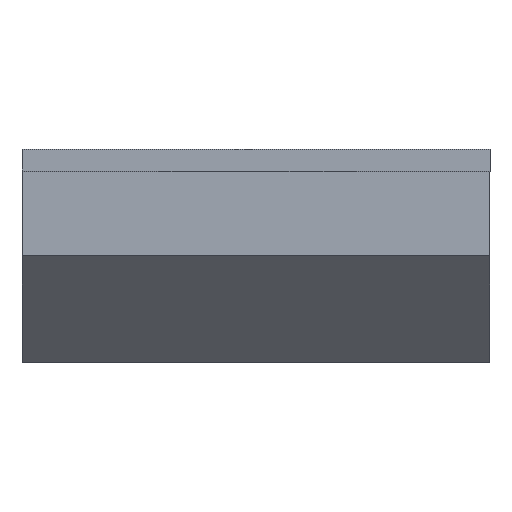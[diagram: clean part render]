
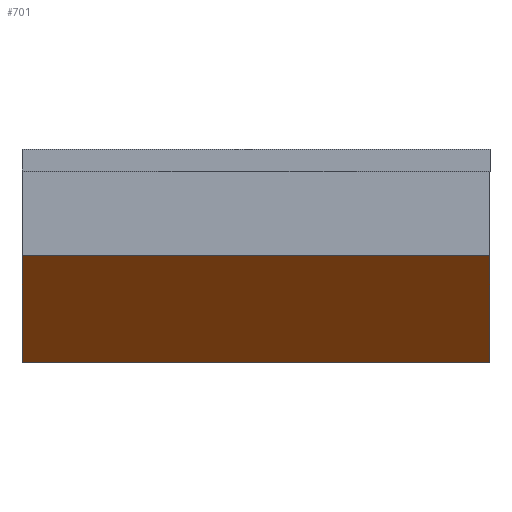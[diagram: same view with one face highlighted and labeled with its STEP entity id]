
A CAD part, top view. The second image highlights one B-rep face of the part: STEP entity #701.
In plain terms, the highlighted planar face has unit normal (0, -0.707, 0.707).
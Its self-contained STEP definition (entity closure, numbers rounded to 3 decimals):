
#484 = VERTEX_POINT('',#485);
#485 = CARTESIAN_POINT('',(0.,0.,6.441));
#492 = PLANE('',#493);
#493 = AXIS2_PLACEMENT_3D('',#494,#495,#496);
#494 = CARTESIAN_POINT('',(0.,0.,0.));
#495 = DIRECTION('',(1.,0.,0.));
#496 = DIRECTION('',(0.,0.,1.));
#504 = PLANE('',#505);
#505 = AXIS2_PLACEMENT_3D('',#506,#507,#508);
#506 = CARTESIAN_POINT('',(0.,0.,0.));
#507 = DIRECTION('',(0.,1.,0.));
#508 = DIRECTION('',(0.,0.,1.));
#573 = VERTEX_POINT('',#574);
#574 = CARTESIAN_POINT('',(0.,2.35,8.79));
#588 = PLANE('',#589);
#589 = AXIS2_PLACEMENT_3D('',#590,#591,#592);
#590 = CARTESIAN_POINT('',(0.,0.,8.79));
#591 = DIRECTION('',(0.,0.,1.));
#592 = DIRECTION('',(1.,0.,0.));
#600 = EDGE_CURVE('',#484,#573,#601,.T.);
#601 = SURFACE_CURVE('',#602,(#606,#613),.PCURVE_S1.);
#602 = LINE('',#603,#604);
#603 = CARTESIAN_POINT('',(0.,-1.023,5.418));
#604 = VECTOR('',#605,1.);
#605 = DIRECTION('',(-0.,0.707,0.707));
#606 = PCURVE('',#492,#607);
#607 = DEFINITIONAL_REPRESENTATION('',(#608),#612);
#608 = LINE('',#609,#610);
#609 = CARTESIAN_POINT('',(5.418,1.023));
#610 = VECTOR('',#611,1.);
#611 = DIRECTION('',(0.707,-0.707));
#612 = ( GEOMETRIC_REPRESENTATION_CONTEXT(2) 
PARAMETRIC_REPRESENTATION_CONTEXT() REPRESENTATION_CONTEXT('2D SPACE',''
  ) );
#613 = PCURVE('',#614,#619);
#614 = PLANE('',#615);
#615 = AXIS2_PLACEMENT_3D('',#616,#617,#618);
#616 = CARTESIAN_POINT('',(0.,1.175,7.615));
#617 = DIRECTION('',(0.,0.707,-0.707));
#618 = DIRECTION('',(-1.,-0.,-0.));
#619 = DEFINITIONAL_REPRESENTATION('',(#620),#624);
#620 = LINE('',#621,#622);
#621 = CARTESIAN_POINT('',(-0.,-3.108));
#622 = VECTOR('',#623,1.);
#623 = DIRECTION('',(-0.,1.));
#624 = ( GEOMETRIC_REPRESENTATION_CONTEXT(2) 
PARAMETRIC_REPRESENTATION_CONTEXT() REPRESENTATION_CONTEXT('2D SPACE',''
  ) );
#632 = VERTEX_POINT('',#633);
#633 = CARTESIAN_POINT('',(10.36,0.,6.441));
#647 = PLANE('',#648);
#648 = AXIS2_PLACEMENT_3D('',#649,#650,#651);
#649 = CARTESIAN_POINT('',(10.36,0.,0.));
#650 = DIRECTION('',(1.,0.,0.));
#651 = DIRECTION('',(0.,0.,1.));
#681 = EDGE_CURVE('',#484,#632,#682,.T.);
#682 = SURFACE_CURVE('',#683,(#687,#694),.PCURVE_S1.);
#683 = LINE('',#684,#685);
#684 = CARTESIAN_POINT('',(0.,0.,6.441));
#685 = VECTOR('',#686,1.);
#686 = DIRECTION('',(1.,0.,0.));
#687 = PCURVE('',#504,#688);
#688 = DEFINITIONAL_REPRESENTATION('',(#689),#693);
#689 = LINE('',#690,#691);
#690 = CARTESIAN_POINT('',(6.441,0.));
#691 = VECTOR('',#692,1.);
#692 = DIRECTION('',(0.,1.));
#693 = ( GEOMETRIC_REPRESENTATION_CONTEXT(2) 
PARAMETRIC_REPRESENTATION_CONTEXT() REPRESENTATION_CONTEXT('2D SPACE',''
  ) );
#694 = PCURVE('',#614,#695);
#695 = DEFINITIONAL_REPRESENTATION('',(#696),#700);
#696 = LINE('',#697,#698);
#697 = CARTESIAN_POINT('',(-0.,-1.661));
#698 = VECTOR('',#699,1.);
#699 = DIRECTION('',(-1.,0.));
#700 = ( GEOMETRIC_REPRESENTATION_CONTEXT(2) 
PARAMETRIC_REPRESENTATION_CONTEXT() REPRESENTATION_CONTEXT('2D SPACE',''
  ) );
#701 = ADVANCED_FACE('',(#702),#614,.F.);
#702 = FACE_BOUND('',#703,.T.);
#703 = EDGE_LOOP('',(#704,#705,#706,#729));
#704 = ORIENTED_EDGE('',*,*,#600,.F.);
#705 = ORIENTED_EDGE('',*,*,#681,.T.);
#706 = ORIENTED_EDGE('',*,*,#707,.T.);
#707 = EDGE_CURVE('',#632,#708,#710,.T.);
#708 = VERTEX_POINT('',#709);
#709 = CARTESIAN_POINT('',(10.36,2.35,8.79));
#710 = SURFACE_CURVE('',#711,(#715,#722),.PCURVE_S1.);
#711 = LINE('',#712,#713);
#712 = CARTESIAN_POINT('',(10.36,-1.023,5.418));
#713 = VECTOR('',#714,1.);
#714 = DIRECTION('',(-0.,0.707,0.707));
#715 = PCURVE('',#614,#716);
#716 = DEFINITIONAL_REPRESENTATION('',(#717),#721);
#717 = LINE('',#718,#719);
#718 = CARTESIAN_POINT('',(-10.36,-3.108));
#719 = VECTOR('',#720,1.);
#720 = DIRECTION('',(-0.,1.));
#721 = ( GEOMETRIC_REPRESENTATION_CONTEXT(2) 
PARAMETRIC_REPRESENTATION_CONTEXT() REPRESENTATION_CONTEXT('2D SPACE',''
  ) );
#722 = PCURVE('',#647,#723);
#723 = DEFINITIONAL_REPRESENTATION('',(#724),#728);
#724 = LINE('',#725,#726);
#725 = CARTESIAN_POINT('',(5.418,1.023));
#726 = VECTOR('',#727,1.);
#727 = DIRECTION('',(0.707,-0.707));
#728 = ( GEOMETRIC_REPRESENTATION_CONTEXT(2) 
PARAMETRIC_REPRESENTATION_CONTEXT() REPRESENTATION_CONTEXT('2D SPACE',''
  ) );
#729 = ORIENTED_EDGE('',*,*,#730,.F.);
#730 = EDGE_CURVE('',#573,#708,#731,.T.);
#731 = SURFACE_CURVE('',#732,(#736,#743),.PCURVE_S1.);
#732 = LINE('',#733,#734);
#733 = CARTESIAN_POINT('',(0.,2.35,8.79));
#734 = VECTOR('',#735,1.);
#735 = DIRECTION('',(1.,0.,0.));
#736 = PCURVE('',#614,#737);
#737 = DEFINITIONAL_REPRESENTATION('',(#738),#742);
#738 = LINE('',#739,#740);
#739 = CARTESIAN_POINT('',(-0.,1.661));
#740 = VECTOR('',#741,1.);
#741 = DIRECTION('',(-1.,0.));
#742 = ( GEOMETRIC_REPRESENTATION_CONTEXT(2) 
PARAMETRIC_REPRESENTATION_CONTEXT() REPRESENTATION_CONTEXT('2D SPACE',''
  ) );
#743 = PCURVE('',#588,#744);
#744 = DEFINITIONAL_REPRESENTATION('',(#745),#749);
#745 = LINE('',#746,#747);
#746 = CARTESIAN_POINT('',(0.,2.35));
#747 = VECTOR('',#748,1.);
#748 = DIRECTION('',(1.,0.));
#749 = ( GEOMETRIC_REPRESENTATION_CONTEXT(2) 
PARAMETRIC_REPRESENTATION_CONTEXT() REPRESENTATION_CONTEXT('2D SPACE',''
  ) );
